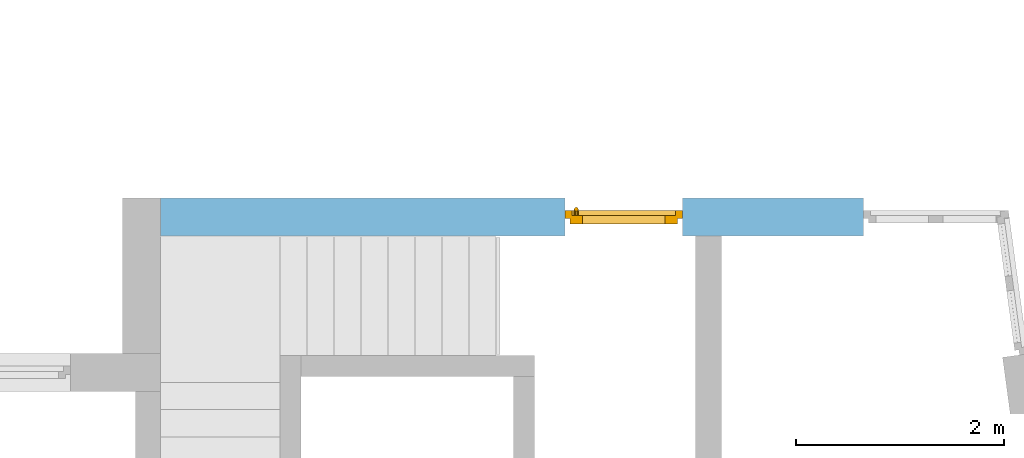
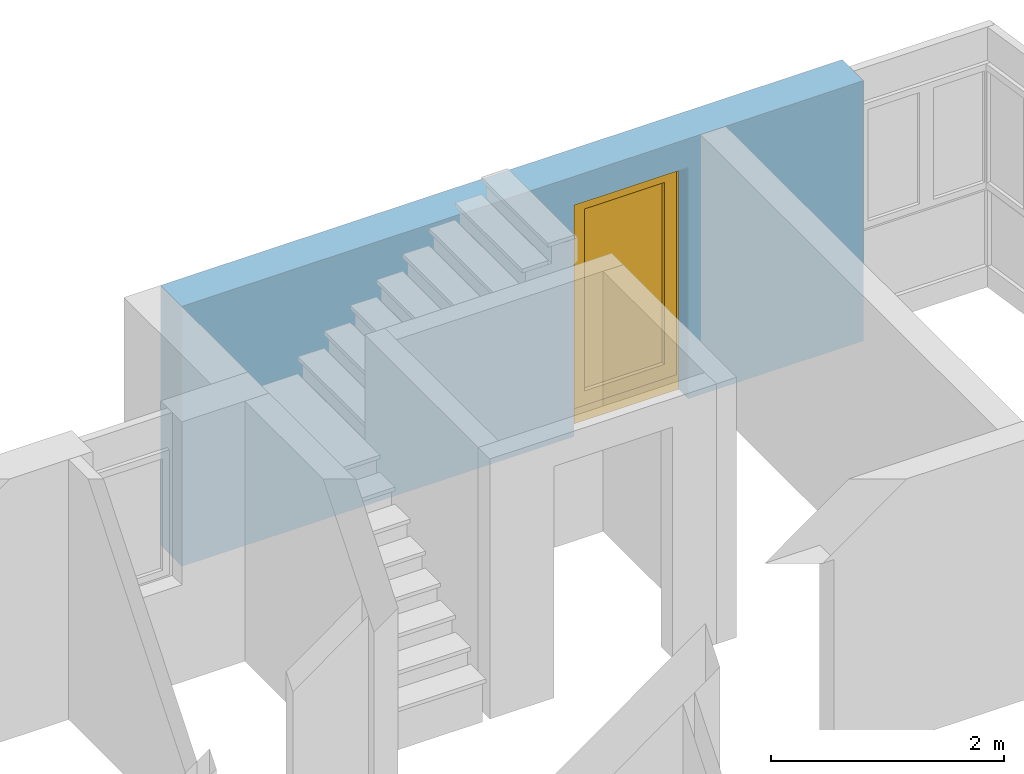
# One storey, part 39 of 41: 1 door, 2 openings, plus 1 element that does not belong to this part.
"""IFC2X3 building model written with IfcOpenShell, lengths in millimetres."""

from ifc_helpers import new_model, entity, si_unit, converted_unit, frame, frame_2d, origin, origin_with_axes, place, context, subcontext, project, spatial, polyline, rectangle, outline, extrude, faceted_brep, material, layer, layer_set, layer_usage, type_object, element, fill, save


model = new_model("IFC2X3")

# Units and contexts
model_context = context("Model", 3, precision=1e-05, world=origin())
body_context = subcontext(model_context, "Body", "Model", "MODEL_VIEW")
ifc_project = project(units=[si_unit("LENGTHUNIT", "METRE", prefix="MILLI"), converted_unit("PLANEANGLEUNIT", "DEGREE", entity("IfcPlaneAngleMeasure", 0.0174532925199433), si_unit("PLANEANGLEUNIT", "RADIAN"), dimensions=[0, 0, 0, 0, 0, 0, 0]), si_unit("AREAUNIT", "SQUARE_METRE"), si_unit("VOLUMEUNIT", "CUBIC_METRE")], contexts=[model_context])

# Building, storey
building_placement = place(None, origin())
building = spatial("IfcBuilding", under=ifc_project, at=building_placement, Name="Gebäude", CompositionType="ELEMENT")
storey_placement = place(building_placement, frame((0.0, 0.0, -200.0), z_axis=(0.0, 0.0, 1.0), x_axis=(1.0, 0.0, 0.0)))
storey = spatial("IfcBuildingStorey", under=building, at=storey_placement, Name="EG.- Grundriss", CompositionType="ELEMENT", Elevation=-200.0)

# Wall, openings, door
ifc_material_1 = material(Name="Poroton")
ifc_layer = layer(ifc_material_1, 365.0000000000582)
ifc_layer_set = layer_set([ifc_layer])
ifc_layer_usage = layer_usage(ifc_layer_set, "AXIS2", "POSITIVE", 0.0)
wall_placement = place(storey_placement, frame((184136.2065758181, 136274.8877324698, 0.0), z_axis=(0.0, 0.0, 1.0), x_axis=(-1.0, 0.0, 0.0)))
wall = element("IfcWallStandardCase", 1, at=wall_placement, inside=storey, material=ifc_layer_usage, Name="<Unnamed Element>", context=body_context, shape_type="SweptSolid", body=[
    extrude(outline(polyline([(0.0, 0.0), (7898.413769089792, 0.0), (7898.413769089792, 365.0000000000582), (-49.37204599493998, 365.0000000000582), (0.0, 0.0)])), origin_with_axes(), (0.0, 0.0, 1.0), 2730.0),
])
opening_1_placement = place(wall_placement, frame((-368.3240406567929, 0.0, 0.0), z_axis=(0.0, 1.0, 0.0), x_axis=(0.0, 0.0, 1.0)))
element("IfcOpeningElement", 2, at=opening_1_placement, cuts=wall, Name="Fensteröffnung", ObjectType="Opening", context=body_context, shape_type="Brep", body=[
    faceted_brep([(0.0, 160.6382545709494, 1535.389315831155), (0.0, -201.0677034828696, 1486.462841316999), (0.0, 0.0, 0.0), (0.0, 1500.0, 0.0), (0.0, 1500.0, 365.0000000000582), (0.0, 318.951994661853, 365.0000000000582), (2730.0, -201.0677034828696, 1486.462841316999), (2730.0, 160.6382545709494, 1535.389315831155), (2730.0, 318.951994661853, 365.0000000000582), (2730.0, 1500.0, 365.0000000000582), (2730.0, 1500.0, 0.0), (2730.0, 0.0, 0.0), (0.0, 1500.0, 0.0), (0.0, 0.0, 0.0), (2730.0, 0.0, 0.0), (2730.0, 1500.0, 0.0), (0.0, 1500.0, 365.0000000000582), (0.0, 1500.0, 0.0), (2730.0, 1500.0, 0.0), (2730.0, 1500.0, 365.0000000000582), (0.0, 318.951994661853, 365.0000000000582), (0.0, 1500.0, 365.0000000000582), (2730.0, 1500.0, 365.0000000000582), (2730.0, 318.951994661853, 365.0000000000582), (0.0, -201.0677034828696, 1486.462841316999), (0.0, 160.6382545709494, 1535.389315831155), (2730.0, 160.6382545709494, 1535.389315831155), (2730.0, -201.0677034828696, 1486.462841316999), (0.0, 0.0, 0.0), (0.0, -201.0677034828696, 1486.462841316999), (2730.0, -201.0677034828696, 1486.462841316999), (2730.0, 0.0, 0.0), (0.0, 160.6382545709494, 1535.389315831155), (0.0, 318.951994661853, 365.0000000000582), (2730.0, 318.951994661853, 365.0000000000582), (2730.0, 160.6382545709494, 1535.389315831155)], [[[0, 1, 2, 3, 4, 5]], [[6, 7, 8, 9, 10, 11]], [[12, 13, 14, 15]], [[16, 17, 18, 19]], [[20, 21, 22, 23]], [[24, 25, 26, 27]], [[28, 29, 30, 31]], [[32, 33, 34, 35]]], orient=[[False], [False], [False], [False], [False], [False], [False], [False]]),
])
opening_2_placement = place(wall_placement, frame((2871.675959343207, 0.0, 0.0), z_axis=(0.0, 1.0, 0.0), x_axis=(0.0, 0.0, 1.0)))
opening_2 = element("IfcOpeningElement", 3, at=opening_2_placement, cuts=wall, Name="Türöffnung", ObjectType="Opening", context=body_context, shape_type="SweptSolid", body=[
    extrude(rectangle(XDim=2430.0, YDim=1135.0, at=frame_2d((1215.0, 567.5), x_axis=(1.0, 0.0))), origin_with_axes(), (0.0, 0.0, 1.0), 365.0000000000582),
])
ifc_material_2 = material()
door_style = type_object("IfcDoorStyle", Name="Tür", ConstructionType="NOTDEFINED", OperationType="USERDEFINED", ParameterTakesPrecedence=False, Sizeable=False)
door_placement = place(opening_2_placement, frame((0.0, 0.0, 0.0), z_axis=(1.0, 0.0, 0.0), x_axis=(0.0, 1.0, 0.0)))
door = element("IfcDoor", 4, at=door_placement, inside=storey, type_object=door_style, material=ifc_material_2, Name="Tür", OverallHeight=2430.0, OverallWidth=1135.0, context=body_context, shape_type="Brep", body=[
    faceted_brep([(9.797174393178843e-15, 200.0000000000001, 2430.0), (9.797174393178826e-15, 200.0, -2.449293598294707e-15), (70.0, 200.0, -2.449293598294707e-15), (70.0, 200.0000000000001, 2430.0), (0.0, 120.0, 2.449293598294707e-15), (1.740327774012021e-29, 120.0000000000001, 2430.0), (69.99999999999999, 120.0000000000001, 2430.0), (69.99999999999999, 120.0, 2.449293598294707e-15), (9.797174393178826e-15, 200.0, -2.449293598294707e-15), (9.797174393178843e-15, 200.0000000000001, 2430.0), (1.740327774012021e-29, 120.0000000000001, 2430.0), (0.0, 120.0, 2.449293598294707e-15), (70.0, 200.0, -2.449293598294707e-15), (9.797174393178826e-15, 200.0, -2.449293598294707e-15), (0.0, 120.0, 2.449293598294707e-15), (69.99999999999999, 120.0, 2.449293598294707e-15), (70.0, 200.0000000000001, 2430.0), (70.0, 200.0, -2.449293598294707e-15), (69.99999999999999, 120.0, 2.449293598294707e-15), (69.99999999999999, 120.0000000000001, 2430.0), (9.797174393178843e-15, 200.0000000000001, 2430.0), (70.0, 200.0000000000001, 2430.0), (69.99999999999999, 120.0000000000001, 2430.0), (1.740327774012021e-29, 120.0000000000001, 2430.0)], [[[0, 1, 2, 3]], [[4, 5, 6, 7]], [[8, 9, 10, 11]], [[12, 13, 14, 15]], [[16, 17, 18, 19]], [[20, 21, 22, 23]]], orient=[[False], [False], [False], [False], [False], [False]]),
    faceted_brep([(1065.0, 200.0, 2430.0), (1065.0, 199.9999999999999, -2.449293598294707e-15), (1135.0, 199.9999999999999, -2.449293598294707e-15), (1135.0, 200.0, 2430.0), (1065.0, 119.9999999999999, 2.449293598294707e-15), (1065.0, 120.0, 2430.0), (1135.0, 120.0, 2430.0), (1135.0, 119.9999999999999, 2.449293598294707e-15), (1065.0, 199.9999999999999, -2.449293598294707e-15), (1065.0, 200.0, 2430.0), (1065.0, 120.0, 2430.0), (1065.0, 119.9999999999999, 2.449293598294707e-15), (1135.0, 199.9999999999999, -2.449293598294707e-15), (1065.0, 199.9999999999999, -2.449293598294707e-15), (1065.0, 119.9999999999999, 2.449293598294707e-15), (1135.0, 119.9999999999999, 2.449293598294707e-15), (1135.0, 200.0, 2430.0), (1135.0, 199.9999999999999, -2.449293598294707e-15), (1135.0, 119.9999999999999, 2.449293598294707e-15), (1135.0, 120.0, 2430.0), (1065.0, 200.0, 2430.0), (1135.0, 200.0, 2430.0), (1135.0, 120.0, 2430.0), (1065.0, 120.0, 2430.0)], [[[0, 1, 2, 3]], [[4, 5, 6, 7]], [[8, 9, 10, 11]], [[12, 13, 14, 15]], [[16, 17, 18, 19]], [[20, 21, 22, 23]]], orient=[[False], [False], [False], [False], [False], [False]]),
    faceted_brep([(70.0, 200.0, 220.0), (70.0, 200.0, -2.449293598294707e-15), (1065.0, 199.9999999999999, -2.449293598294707e-15), (1065.0, 199.9999999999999, 220.0), (69.99999999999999, 120.0, 2.449293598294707e-15), (69.99999999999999, 120.0, 220.0), (1065.0, 119.9999999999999, 220.0), (1065.0, 119.9999999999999, 2.449293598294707e-15), (70.0, 200.0, -2.449293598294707e-15), (70.0, 200.0, 220.0), (69.99999999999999, 120.0, 220.0), (69.99999999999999, 120.0, 2.449293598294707e-15), (1065.0, 199.9999999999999, -2.449293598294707e-15), (70.0, 200.0, -2.449293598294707e-15), (69.99999999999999, 120.0, 2.449293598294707e-15), (1065.0, 119.9999999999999, 2.449293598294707e-15), (1065.0, 199.9999999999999, 220.0), (1065.0, 199.9999999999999, -2.449293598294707e-15), (1065.0, 119.9999999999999, 2.449293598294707e-15), (1065.0, 119.9999999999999, 220.0), (70.0, 200.0, 220.0), (1065.0, 199.9999999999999, 220.0), (1065.0, 119.9999999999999, 220.0), (69.99999999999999, 120.0, 220.0)], [[[0, 1, 2, 3]], [[4, 5, 6, 7]], [[8, 9, 10, 11]], [[12, 13, 14, 15]], [[16, 17, 18, 19]], [[20, 21, 22, 23]]], orient=[[False], [False], [False], [False], [False], [False]]),
    faceted_brep([(70.0, 200.0000000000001, 2430.000000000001), (70.0, 200.0000000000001, 2360.000000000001), (1065.0, 200.0, 2360.000000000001), (1065.0, 200.0, 2430.000000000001), (69.99999999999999, 120.0000000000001, 2360.000000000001), (69.99999999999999, 120.0000000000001, 2430.000000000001), (1065.0, 120.0, 2430.000000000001), (1065.0, 120.0, 2360.000000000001), (70.0, 200.0000000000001, 2360.000000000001), (70.0, 200.0000000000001, 2430.000000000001), (69.99999999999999, 120.0000000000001, 2430.000000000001), (69.99999999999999, 120.0000000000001, 2360.000000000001), (1065.0, 200.0, 2360.000000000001), (70.0, 200.0000000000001, 2360.000000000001), (69.99999999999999, 120.0000000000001, 2360.000000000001), (1065.0, 120.0, 2360.000000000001), (1065.0, 200.0, 2430.000000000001), (1065.0, 200.0, 2360.000000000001), (1065.0, 120.0, 2360.000000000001), (1065.0, 120.0, 2430.000000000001), (70.0, 200.0000000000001, 2430.000000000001), (1065.0, 200.0, 2430.000000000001), (1065.0, 120.0, 2430.000000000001), (69.99999999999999, 120.0000000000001, 2430.000000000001)], [[[0, 1, 2, 3]], [[4, 5, 6, 7]], [[8, 9, 10, 11]], [[12, 13, 14, 15]], [[16, 17, 18, 19]], [[20, 21, 22, 23]]], orient=[[False], [False], [False], [False], [False], [False]]),
    faceted_brep([(50.00000000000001, 250.0000000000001, 2380.0), (50.00000000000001, 250.0, 200.0), (170.0, 250.0, 200.0), (170.0, 250.0000000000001, 2380.0), (50.0, 170.0, 200.0), (50.0, 170.0000000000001, 2380.0), (170.0, 170.0000000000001, 2380.0), (170.0, 170.0, 200.0), (50.00000000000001, 250.0, 200.0), (50.00000000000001, 250.0000000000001, 2380.0), (50.0, 170.0000000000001, 2380.0), (50.0, 170.0, 200.0), (170.0, 250.0, 200.0), (50.00000000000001, 250.0, 200.0), (50.0, 170.0, 200.0), (170.0, 170.0, 200.0), (170.0, 250.0000000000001, 2380.0), (170.0, 250.0, 200.0), (170.0, 170.0, 200.0), (170.0, 170.0000000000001, 2380.0), (50.00000000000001, 250.0000000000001, 2380.0), (170.0, 250.0000000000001, 2380.0), (170.0, 170.0000000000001, 2380.0), (50.0, 170.0000000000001, 2380.0)], [[[0, 1, 2, 3]], [[4, 5, 6, 7]], [[8, 9, 10, 11]], [[12, 13, 14, 15]], [[16, 17, 18, 19]], [[20, 21, 22, 23]]], orient=[[False], [False], [False], [False], [False], [False]]),
    faceted_brep([(964.9999999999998, 250.0, 2380.0), (964.9999999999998, 249.9999999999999, 200.0), (1085.0, 249.9999999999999, 200.0), (1085.0, 250.0, 2380.0), (964.9999999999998, 169.9999999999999, 200.0), (964.9999999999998, 170.0, 2380.0), (1085.0, 170.0, 2380.0), (1085.0, 169.9999999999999, 200.0), (964.9999999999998, 249.9999999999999, 200.0), (964.9999999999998, 250.0, 2380.0), (964.9999999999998, 170.0, 2380.0), (964.9999999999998, 169.9999999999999, 200.0), (1085.0, 249.9999999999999, 200.0), (964.9999999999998, 249.9999999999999, 200.0), (964.9999999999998, 169.9999999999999, 200.0), (1085.0, 169.9999999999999, 200.0), (1085.0, 250.0, 2380.0), (1085.0, 249.9999999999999, 200.0), (1085.0, 169.9999999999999, 200.0), (1085.0, 170.0, 2380.0), (964.9999999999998, 250.0, 2380.0), (1085.0, 250.0, 2380.0), (1085.0, 170.0, 2380.0), (964.9999999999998, 170.0, 2380.0)], [[[0, 1, 2, 3]], [[4, 5, 6, 7]], [[8, 9, 10, 11]], [[12, 13, 14, 15]], [[16, 17, 18, 19]], [[20, 21, 22, 23]]], orient=[[False], [False], [False], [False], [False], [False]]),
    faceted_brep([(170.0, 250.0, 350.0), (170.0, 250.0, 200.0), (964.9999999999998, 249.9999999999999, 200.0), (964.9999999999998, 249.9999999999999, 350.0), (170.0, 170.0, 200.0), (170.0, 170.0, 350.0), (964.9999999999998, 169.9999999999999, 350.0), (964.9999999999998, 169.9999999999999, 200.0), (170.0, 250.0, 200.0), (170.0, 250.0, 350.0), (170.0, 170.0, 350.0), (170.0, 170.0, 200.0), (964.9999999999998, 249.9999999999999, 200.0), (170.0, 250.0, 200.0), (170.0, 170.0, 200.0), (964.9999999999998, 169.9999999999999, 200.0), (964.9999999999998, 249.9999999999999, 350.0), (964.9999999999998, 249.9999999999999, 200.0), (964.9999999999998, 169.9999999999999, 200.0), (964.9999999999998, 169.9999999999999, 350.0), (170.0, 250.0, 350.0), (964.9999999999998, 249.9999999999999, 350.0), (964.9999999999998, 169.9999999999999, 350.0), (170.0, 170.0, 350.0)], [[[0, 1, 2, 3]], [[4, 5, 6, 7]], [[8, 9, 10, 11]], [[12, 13, 14, 15]], [[16, 17, 18, 19]], [[20, 21, 22, 23]]], orient=[[False], [False], [False], [False], [False], [False]]),
    faceted_brep([(170.0, 250.0000000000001, 2380.0), (170.0, 250.0000000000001, 2260.0), (964.9999999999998, 250.0, 2260.0), (964.9999999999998, 250.0, 2380.0), (170.0, 170.0000000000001, 2260.0), (170.0, 170.0000000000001, 2380.0), (964.9999999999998, 170.0, 2380.0), (964.9999999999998, 170.0, 2260.0), (170.0, 250.0000000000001, 2260.0), (170.0, 250.0000000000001, 2380.0), (170.0, 170.0000000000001, 2380.0), (170.0, 170.0000000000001, 2260.0), (964.9999999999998, 250.0, 2260.0), (170.0, 250.0000000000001, 2260.0), (170.0, 170.0000000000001, 2260.0), (964.9999999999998, 170.0, 2260.0), (964.9999999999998, 250.0, 2380.0), (964.9999999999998, 250.0, 2260.0), (964.9999999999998, 170.0, 2260.0), (964.9999999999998, 170.0, 2380.0), (170.0, 250.0000000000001, 2380.0), (964.9999999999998, 250.0, 2380.0), (964.9999999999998, 170.0, 2380.0), (170.0, 170.0000000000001, 2380.0)], [[[0, 1, 2, 3]], [[4, 5, 6, 7]], [[8, 9, 10, 11]], [[12, 13, 14, 15]], [[16, 17, 18, 19]], [[20, 21, 22, 23]]], orient=[[False], [False], [False], [False], [False], [False]]),
    faceted_brep([(1045.0, 170.0, 1920.0), (1042.320508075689, 170.0, 1930.0), (1035.0, 170.0, 1937.320508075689), (1025.0, 170.0, 1940.0), (1015.0, 170.0, 1937.320508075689), (1007.679491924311, 170.0, 1930.0), (1005.0, 170.0, 1920.0), (1007.679491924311, 170.0, 1910.0), (1015.0, 170.0, 1902.679491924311), (1025.0, 170.0, 1900.0), (1035.0, 170.0, 1902.679491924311), (1042.320508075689, 170.0, 1910.0), (1045.0, 170.0, 1920.0), (1045.0, 110.0, 1920.0), (1042.320508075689, 99.99999999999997, 1930.0), (1042.320508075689, 170.0, 1930.0), (1042.320508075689, 170.0, 1930.0), (1042.320508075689, 99.99999999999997, 1930.0), (1035.0, 92.67949192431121, 1937.320508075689), (1035.0, 170.0, 1937.320508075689), (1035.0, 170.0, 1937.320508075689), (1035.0, 92.67949192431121, 1937.320508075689), (1025.0, 89.99999999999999, 1940.0), (1025.0, 170.0, 1940.0), (1025.0, 170.0, 1940.0), (1025.0, 89.99999999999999, 1940.0), (1015.0, 92.67949192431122, 1937.320508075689), (1015.0, 170.0, 1937.320508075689), (1015.0, 170.0, 1937.320508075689), (1015.0, 92.67949192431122, 1937.320508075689), (1007.679491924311, 99.99999999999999, 1930.0), (1007.679491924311, 170.0, 1930.0), (1007.679491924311, 170.0, 1930.0), (1007.679491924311, 99.99999999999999, 1930.0), (1005.0, 110.0, 1920.0), (1005.0, 170.0, 1920.0), (1005.0, 170.0, 1920.0), (1005.0, 110.0, 1920.0), (1007.679491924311, 120.0, 1910.0), (1007.679491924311, 170.0, 1910.0), (1007.679491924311, 170.0, 1910.0), (1007.679491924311, 120.0, 1910.0), (1015.0, 127.3205080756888, 1902.679491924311), (1015.0, 170.0, 1902.679491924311), (1015.0, 170.0, 1902.679491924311), (1015.0, 127.3205080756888, 1902.679491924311), (1025.0, 130.0, 1900.0), (1025.0, 170.0, 1900.0), (1025.0, 170.0, 1900.0), (1025.0, 130.0, 1900.0), (1035.0, 127.3205080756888, 1902.679491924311), (1035.0, 170.0, 1902.679491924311), (1035.0, 170.0, 1902.679491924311), (1035.0, 127.3205080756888, 1902.679491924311), (1042.320508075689, 120.0, 1910.0), (1042.320508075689, 170.0, 1910.0), (1042.320508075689, 170.0, 1910.0), (1042.320508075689, 120.0, 1910.0), (1045.0, 110.0, 1920.0), (1045.0, 170.0, 1920.0), (1045.0, 110.0, 1920.0), (1045.0, 109.9999999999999, 620.0), (1042.320508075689, 99.99999999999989, 610.0), (1042.320508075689, 99.99999999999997, 1930.0), (1042.320508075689, 99.99999999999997, 1930.0), (1042.320508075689, 99.99999999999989, 610.0), (1035.0, 92.67949192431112, 602.6794919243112), (1035.0, 92.67949192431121, 1937.320508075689), (1035.0, 92.67949192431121, 1937.320508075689), (1035.0, 92.67949192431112, 602.6794919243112), (1025.0, 89.9999999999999, 600.0), (1025.0, 89.99999999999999, 1940.0), (1025.0, 89.99999999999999, 1940.0), (1025.0, 89.9999999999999, 600.0), (1015.0, 92.67949192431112, 602.6794919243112), (1015.0, 92.67949192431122, 1937.320508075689), (1015.0, 92.67949192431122, 1937.320508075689), (1015.0, 92.67949192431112, 602.6794919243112), (1007.679491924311, 99.99999999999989, 610.0), (1007.679491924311, 99.99999999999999, 1930.0), (1007.679491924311, 99.99999999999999, 1930.0), (1007.679491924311, 99.99999999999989, 610.0), (1005.0, 109.9999999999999, 620.0), (1005.0, 110.0, 1920.0), (1005.0, 110.0, 1920.0), (1005.0, 109.9999999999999, 620.0), (1007.679491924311, 119.9999999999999, 630.0), (1007.679491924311, 120.0, 1910.0), (1007.679491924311, 120.0, 1910.0), (1007.679491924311, 119.9999999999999, 630.0), (1015.0, 127.3205080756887, 637.3205080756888), (1015.0, 127.3205080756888, 1902.679491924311), (1015.0, 127.3205080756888, 1902.679491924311), (1015.0, 127.3205080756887, 637.3205080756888), (1025.0, 129.9999999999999, 640.0), (1025.0, 130.0, 1900.0), (1025.0, 130.0, 1900.0), (1025.0, 129.9999999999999, 640.0), (1035.0, 127.3205080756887, 637.3205080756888), (1035.0, 127.3205080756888, 1902.679491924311), (1035.0, 127.3205080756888, 1902.679491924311), (1035.0, 127.3205080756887, 637.3205080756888), (1042.320508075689, 119.9999999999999, 630.0), (1042.320508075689, 120.0, 1910.0), (1042.320508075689, 120.0, 1910.0), (1042.320508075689, 119.9999999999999, 630.0), (1045.0, 109.9999999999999, 620.0), (1045.0, 110.0, 1920.0), (1045.0, 169.9999999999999, 620.0), (1042.320508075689, 169.9999999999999, 630.0), (1035.0, 169.9999999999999, 637.3205080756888), (1025.0, 169.9999999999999, 640.0), (1015.0, 169.9999999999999, 637.3205080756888), (1007.679491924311, 169.9999999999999, 630.0), (1005.0, 169.9999999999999, 620.0), (1007.679491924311, 169.9999999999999, 610.0), (1015.0, 169.9999999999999, 602.6794919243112), (1025.0, 169.9999999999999, 600.0), (1035.0, 169.9999999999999, 602.6794919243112), (1042.320508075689, 169.9999999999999, 610.0), (1045.0, 109.9999999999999, 620.0), (1045.0, 169.9999999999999, 620.0), (1042.320508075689, 169.9999999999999, 610.0), (1042.320508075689, 99.99999999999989, 610.0), (1042.320508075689, 99.99999999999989, 610.0), (1042.320508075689, 169.9999999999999, 610.0), (1035.0, 169.9999999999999, 602.6794919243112), (1035.0, 92.67949192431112, 602.6794919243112), (1035.0, 92.67949192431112, 602.6794919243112), (1035.0, 169.9999999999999, 602.6794919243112), (1025.0, 169.9999999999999, 600.0), (1025.0, 89.9999999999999, 600.0), (1025.0, 89.9999999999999, 600.0), (1025.0, 169.9999999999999, 600.0), (1015.0, 169.9999999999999, 602.6794919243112), (1015.0, 92.67949192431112, 602.6794919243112), (1015.0, 92.67949192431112, 602.6794919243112), (1015.0, 169.9999999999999, 602.6794919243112), (1007.679491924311, 169.9999999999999, 610.0), (1007.679491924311, 99.99999999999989, 610.0), (1007.679491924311, 99.99999999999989, 610.0), (1007.679491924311, 169.9999999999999, 610.0), (1005.0, 169.9999999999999, 620.0), (1005.0, 109.9999999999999, 620.0), (1005.0, 109.9999999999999, 620.0), (1005.0, 169.9999999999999, 620.0), (1007.679491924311, 169.9999999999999, 630.0), (1007.679491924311, 119.9999999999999, 630.0), (1007.679491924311, 119.9999999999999, 630.0), (1007.679491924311, 169.9999999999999, 630.0), (1015.0, 169.9999999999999, 637.3205080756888), (1015.0, 127.3205080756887, 637.3205080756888), (1015.0, 127.3205080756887, 637.3205080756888), (1015.0, 169.9999999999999, 637.3205080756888), (1025.0, 169.9999999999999, 640.0), (1025.0, 129.9999999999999, 640.0), (1025.0, 129.9999999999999, 640.0), (1025.0, 169.9999999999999, 640.0), (1035.0, 169.9999999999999, 637.3205080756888), (1035.0, 127.3205080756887, 637.3205080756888), (1035.0, 127.3205080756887, 637.3205080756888), (1035.0, 169.9999999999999, 637.3205080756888), (1042.320508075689, 169.9999999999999, 630.0), (1042.320508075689, 119.9999999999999, 630.0), (1042.320508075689, 119.9999999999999, 630.0), (1042.320508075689, 169.9999999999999, 630.0), (1045.0, 169.9999999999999, 620.0), (1045.0, 109.9999999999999, 620.0)], [[[0, 1, 2, 3, 4, 5, 6, 7, 8, 9, 10, 11]], [[12, 13, 14, 15]], [[16, 17, 18, 19]], [[20, 21, 22, 23]], [[24, 25, 26, 27]], [[28, 29, 30, 31]], [[32, 33, 34, 35]], [[36, 37, 38, 39]], [[40, 41, 42, 43]], [[44, 45, 46, 47]], [[48, 49, 50, 51]], [[52, 53, 54, 55]], [[56, 57, 58, 59]], [[60, 61, 62, 63]], [[64, 65, 66, 67]], [[68, 69, 70, 71]], [[72, 73, 74, 75]], [[76, 77, 78, 79]], [[80, 81, 82, 83]], [[84, 85, 86, 87]], [[88, 89, 90, 91]], [[92, 93, 94, 95]], [[96, 97, 98, 99]], [[100, 101, 102, 103]], [[104, 105, 106, 107]], [[108, 109, 110, 111, 112, 113, 114, 115, 116, 117, 118, 119]], [[120, 121, 122, 123]], [[124, 125, 126, 127]], [[128, 129, 130, 131]], [[132, 133, 134, 135]], [[136, 137, 138, 139]], [[140, 141, 142, 143]], [[144, 145, 146, 147]], [[148, 149, 150, 151]], [[152, 153, 154, 155]], [[156, 157, 158, 159]], [[160, 161, 162, 163]], [[164, 165, 166, 167]]], orient=[[False], [False], [False], [False], [False], [False], [False], [False], [False], [False], [False], [False], [False], [False], [False], [False], [False], [False], [False], [False], [False], [False], [False], [False], [False], [False], [False], [False], [False], [False], [False], [False], [False], [False], [False], [False], [False], [False]]),
    faceted_brep([(70.0, 200.0, 220.0), (70.0, 200.0, 370.0), (69.99999999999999, 120.0, 370.0), (69.99999999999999, 120.0, 220.0), (71.0, 200.0, 220.0), (70.99999999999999, 120.0, 220.0), (70.99999999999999, 120.0, 370.0), (71.0, 200.0, 370.0), (70.0, 200.0, 220.0), (71.0, 200.0, 220.0), (71.0, 200.0, 370.0), (70.0, 200.0, 370.0), (70.0, 200.0, 370.0), (71.0, 200.0, 370.0), (70.99999999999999, 120.0, 370.0), (69.99999999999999, 120.0, 370.0), (69.99999999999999, 120.0, 370.0), (70.99999999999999, 120.0, 370.0), (70.99999999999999, 120.0, 220.0), (69.99999999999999, 120.0, 220.0), (69.99999999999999, 120.0, 220.0), (70.99999999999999, 120.0, 220.0), (71.0, 200.0, 220.0), (70.0, 200.0, 220.0)], [[[0, 1, 2, 3]], [[4, 5, 6, 7]], [[8, 9, 10, 11]], [[12, 13, 14, 15]], [[16, 17, 18, 19]], [[20, 21, 22, 23]]], orient=[[False], [False], [False], [False], [False], [False]]),
    faceted_brep([(170.0, 210.0, 350.0), (964.9999999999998, 209.9999999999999, 350.0), (964.9999999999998, 210.0, 2260.0), (170.0, 210.0000000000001, 2260.0), (170.0, 209.0, 350.0), (170.0, 209.0000000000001, 2260.0), (964.9999999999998, 209.0, 2260.0), (964.9999999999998, 208.9999999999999, 350.0), (170.0, 210.0, 350.0), (170.0, 209.0, 350.0), (964.9999999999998, 208.9999999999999, 350.0), (964.9999999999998, 209.9999999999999, 350.0), (964.9999999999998, 209.9999999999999, 350.0), (964.9999999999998, 208.9999999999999, 350.0), (964.9999999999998, 209.0, 2260.0), (964.9999999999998, 210.0, 2260.0), (964.9999999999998, 210.0, 2260.0), (964.9999999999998, 209.0, 2260.0), (170.0, 209.0000000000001, 2260.0), (170.0, 210.0000000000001, 2260.0), (170.0, 210.0000000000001, 2260.0), (170.0, 209.0000000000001, 2260.0), (170.0, 209.0, 350.0), (170.0, 210.0, 350.0)], [[[0, 1, 2, 3]], [[4, 5, 6, 7]], [[8, 9, 10, 11]], [[12, 13, 14, 15]], [[16, 17, 18, 19]], [[20, 21, 22, 23]]], orient=[[False], [False], [False], [False], [False], [False]]),
])
fill(opening_2, door)

save(model, "model.ifc")
